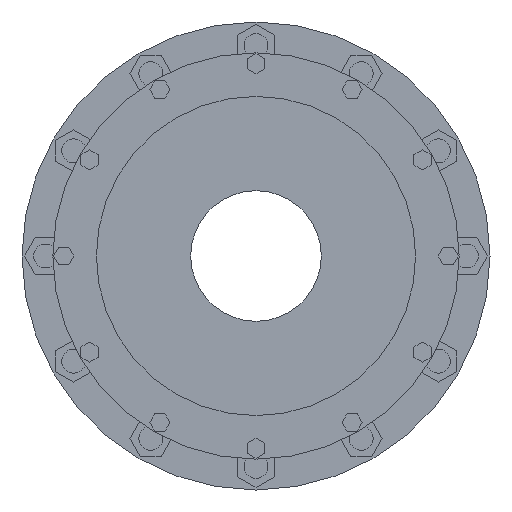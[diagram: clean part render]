
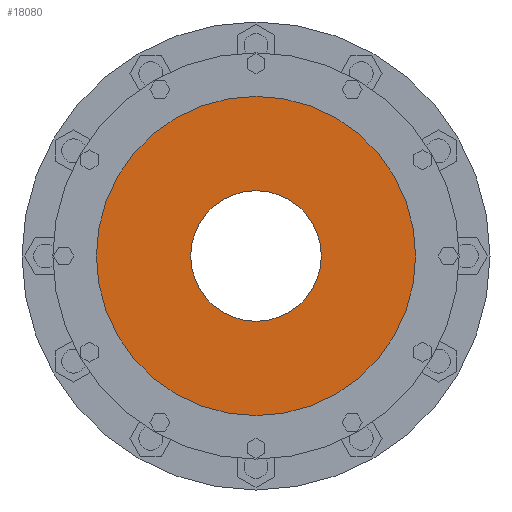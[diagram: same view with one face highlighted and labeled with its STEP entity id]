
A CAD part, left-side view. The second image highlights one B-rep face of the part: STEP entity #18080.
In plain terms, the highlighted planar face has unit normal (-1, 0, 0).
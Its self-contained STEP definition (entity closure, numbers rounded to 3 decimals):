
#17778=CARTESIAN_POINT('',(-618.,0.,0.));
#17779=DIRECTION('',(1.,0.,0.));
#17780=DIRECTION('',(0.,1.,0.));
#17781=AXIS2_PLACEMENT_3D('',#17778,#17779,#17780);
#17857=CARTESIAN_POINT('',(-618.,0.,0.));
#17858=DIRECTION('',(-1.,0.,0.));
#17859=DIRECTION('',(0.,1.,0.));
#17860=AXIS2_PLACEMENT_3D('',#17857,#17858,#17859);
#17862=CARTESIAN_POINT('',(-618.,0.,0.));
#17863=DIRECTION('',(1.,0.,0.));
#17864=DIRECTION('',(0.,1.,0.));
#17865=AXIS2_PLACEMENT_3D('',#17862,#17863,#17864);
#17876=CARTESIAN_POINT('',(-618.,0.,0.));
#17877=DIRECTION('',(-1.,0.,0.));
#17878=DIRECTION('',(0.,1.,0.));
#17879=AXIS2_PLACEMENT_3D('',#17876,#17877,#17878);
#17885=CARTESIAN_POINT('',(-618.,90.,0.));
#17886=CARTESIAN_POINT('',(-618.,-90.,0.));
#17887=VERTEX_POINT('',#17885);
#17888=VERTEX_POINT('',#17886);
#17889=CARTESIAN_POINT('',(-618.,220.,0.));
#17890=CARTESIAN_POINT('',(-618.,-220.,0.));
#17891=VERTEX_POINT('',#17889);
#17892=VERTEX_POINT('',#17890);
#18066=CARTESIAN_POINT('',(-618.,0.,0.));
#18067=DIRECTION('',(1.,0.,0.));
#18068=DIRECTION('',(0.,-1.,0.));
#18069=AXIS2_PLACEMENT_3D('',#18066,#18067,#18068);
#18070=PLANE('',#18069);
#18071=ORIENTED_EDGE('',*,*,#18048,.F.);
#18072=ORIENTED_EDGE('',*,*,#18061,.T.);
#18073=EDGE_LOOP('',(#18071,#18072));
#18074=FACE_OUTER_BOUND('',#18073,.F.);
#18075=ORIENTED_EDGE('',*,*,#17926,.F.);
#18077=ORIENTED_EDGE('',*,*,#18076,.T.);
#18078=EDGE_LOOP('',(#18075,#18077));
#18079=FACE_BOUND('',#18078,.F.);
#18080=ADVANCED_FACE('',(#18074,#18079),#18070,.F.);
#17782=CIRCLE('',#17781,90.);
#17861=CIRCLE('',#17860,220.);
#17866=CIRCLE('',#17865,220.);
#17880=CIRCLE('',#17879,90.);
#17926=EDGE_CURVE('',#17887,#17888,#17782,.T.);
#18048=EDGE_CURVE('',#17891,#17892,#17861,.T.);
#18061=EDGE_CURVE('',#17891,#17892,#17866,.T.);
#18076=EDGE_CURVE('',#17887,#17888,#17880,.T.);
